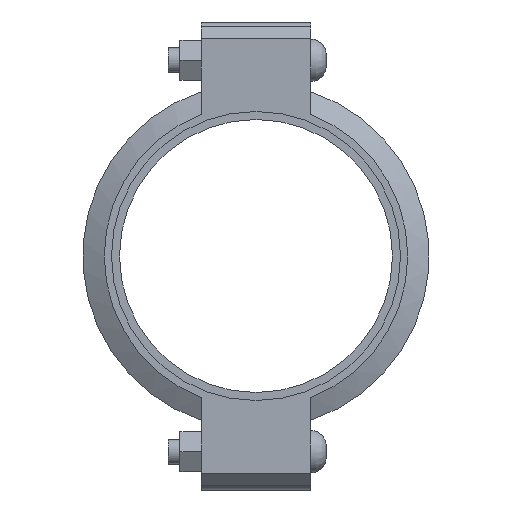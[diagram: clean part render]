
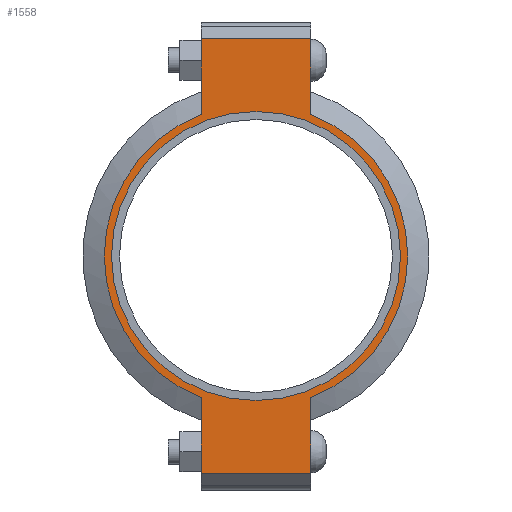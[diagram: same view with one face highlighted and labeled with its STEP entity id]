
A CAD part, left-side view. The second image highlights one B-rep face of the part: STEP entity #1558.
In plain terms, the highlighted planar face has unit normal (-1, 0, 0) as drawn and (0, 0, 1) by its records, which use the part's own axes.
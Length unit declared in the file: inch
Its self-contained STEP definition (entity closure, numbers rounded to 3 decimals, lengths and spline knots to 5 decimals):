
#182=LINE('',#2719,#275);
#190=LINE('',#2755,#283);
#197=LINE('',#2776,#290);
#206=LINE('',#2808,#299);
#207=LINE('',#2812,#300);
#208=LINE('',#2814,#301);
#275=VECTOR('',#2215,0.3937);
#283=VECTOR('',#2231,0.3937);
#290=VECTOR('',#2250,0.3937);
#299=VECTOR('',#2275,0.3937);
#300=VECTOR('',#2280,0.3937);
#301=VECTOR('',#2281,0.3937);
#357=FACE_BOUND('',#535,.T.);
#429=FACE_OUTER_BOUND('',#534,.T.);
#534=EDGE_LOOP('',(#1299,#1300,#1301,#1302,#1303,#1304,#1305,#1306));
#535=EDGE_LOOP('',(#1307));
#607=CIRCLE('',#1777,4.3125);
#633=CIRCLE('',#1836,4.53);
#634=CIRCLE('',#1837,4.53);
#699=VERTEX_POINT('',#2535);
#742=VERTEX_POINT('',#2716);
#743=VERTEX_POINT('',#2718);
#754=VERTEX_POINT('',#2750);
#755=VERTEX_POINT('',#2754);
#762=VERTEX_POINT('',#2773);
#763=VERTEX_POINT('',#2775);
#773=VERTEX_POINT('',#2811);
#774=VERTEX_POINT('',#2813);
#855=EDGE_CURVE('',#699,#699,#607,.T.);
#916=EDGE_CURVE('',#743,#742,#182,.T.);
#930=EDGE_CURVE('',#755,#754,#190,.T.);
#940=EDGE_CURVE('',#763,#762,#197,.T.);
#955=EDGE_CURVE('',#755,#742,#206,.T.);
#956=EDGE_CURVE('',#754,#763,#633,.T.);
#957=EDGE_CURVE('',#773,#762,#207,.T.);
#958=EDGE_CURVE('',#773,#774,#208,.T.);
#959=EDGE_CURVE('',#774,#743,#634,.T.);
#1299=ORIENTED_EDGE('',*,*,#955,.F.);
#1300=ORIENTED_EDGE('',*,*,#930,.T.);
#1301=ORIENTED_EDGE('',*,*,#956,.T.);
#1302=ORIENTED_EDGE('',*,*,#940,.T.);
#1303=ORIENTED_EDGE('',*,*,#957,.F.);
#1304=ORIENTED_EDGE('',*,*,#958,.T.);
#1305=ORIENTED_EDGE('',*,*,#959,.T.);
#1306=ORIENTED_EDGE('',*,*,#916,.T.);
#1307=ORIENTED_EDGE('',*,*,#855,.T.);
#1400=PLANE('',#1835);
#1558=ADVANCED_FACE('',(#429,#357),#1400,.T.);
#1777=AXIS2_PLACEMENT_3D('',#2537,#2091,#2092);
#1835=AXIS2_PLACEMENT_3D('',#2809,#2276,#2277);
#1836=AXIS2_PLACEMENT_3D('',#2810,#2278,#2279);
#1837=AXIS2_PLACEMENT_3D('',#2815,#2282,#2283);
#2091=DIRECTION('center_axis',(0.,0.,-1.));
#2092=DIRECTION('ref_axis',(-1.,0.,0.));
#2215=DIRECTION('',(-1.,0.,0.));
#2231=DIRECTION('',(1.,0.,0.));
#2250=DIRECTION('',(1.,0.,0.));
#2275=DIRECTION('',(0.,1.,0.));
#2276=DIRECTION('center_axis',(0.,0.,1.));
#2277=DIRECTION('ref_axis',(1.,0.,0.));
#2278=DIRECTION('center_axis',(0.,0.,1.));
#2279=DIRECTION('ref_axis',(-1.,0.,0.));
#2280=DIRECTION('',(0.,-1.,0.));
#2281=DIRECTION('',(-1.,0.,0.));
#2282=DIRECTION('center_axis',(0.,0.,1.));
#2283=DIRECTION('ref_axis',(-1.,0.,0.));
#2535=CARTESIAN_POINT('',(4.3125,0.,1.16));
#2537=CARTESIAN_POINT('Origin',(0.,0.,1.16));
#2716=CARTESIAN_POINT('',(-6.485,1.63,1.16));
#2718=CARTESIAN_POINT('',(-4.22658,1.63,1.16));
#2719=CARTESIAN_POINT('',(-6.985,1.63,1.16));
#2750=CARTESIAN_POINT('',(-4.22658,-1.63,1.16));
#2754=CARTESIAN_POINT('',(-6.485,-1.63,1.16));
#2755=CARTESIAN_POINT('',(6.985,-1.63,1.16));
#2773=CARTESIAN_POINT('',(6.485,-1.63,1.16));
#2775=CARTESIAN_POINT('',(4.22658,-1.63,1.16));
#2776=CARTESIAN_POINT('',(6.985,-1.63,1.16));
#2808=CARTESIAN_POINT('',(-6.485,0.815,1.16));
#2809=CARTESIAN_POINT('Origin',(0.,0.,
1.16));
#2810=CARTESIAN_POINT('Origin',(0.,0.,1.16));
#2811=CARTESIAN_POINT('',(6.485,1.63,1.16));
#2812=CARTESIAN_POINT('',(6.485,-0.815,1.16));
#2813=CARTESIAN_POINT('',(4.22658,1.63,1.16));
#2814=CARTESIAN_POINT('',(-6.985,1.63,1.16));
#2815=CARTESIAN_POINT('Origin',(0.,0.,1.16));
